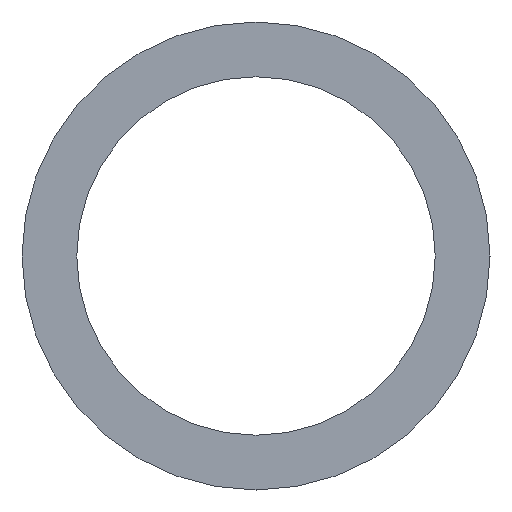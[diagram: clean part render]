
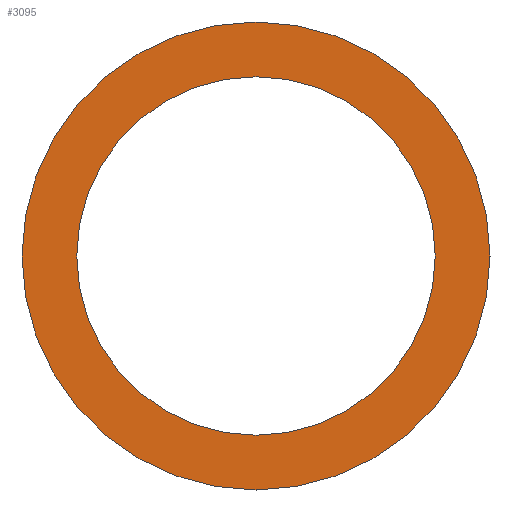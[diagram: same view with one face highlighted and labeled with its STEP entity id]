
A CAD part, front view. The second image highlights one B-rep face of the part: STEP entity #3095.
In plain terms, the highlighted planar face has unit normal (0, -1, 0).
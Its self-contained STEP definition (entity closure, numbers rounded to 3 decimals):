
#49 = AXIS2_PLACEMENT_3D ( 'NONE', #4685, #1073, #1504 ) ;
#291 = DIRECTION ( 'NONE',  ( 0., 0., -1. ) ) ;
#499 = AXIS2_PLACEMENT_3D ( 'NONE', #4060, #2375, #4026 ) ;
#1073 = DIRECTION ( 'NONE',  ( 0., -1., 0. ) ) ;
#1220 = CIRCLE ( 'NONE', #49, 117.5 ) ;
#1240 = CARTESIAN_POINT ( 'NONE',  ( 0., -32., 90. ) ) ;
#1285 = CARTESIAN_POINT ( 'NONE',  ( 0., -32., 0. ) ) ;
#1504 = DIRECTION ( 'NONE',  ( 0., 0., -1. ) ) ;
#1518 = AXIS2_PLACEMENT_3D ( 'NONE', #5228, #4834, #291 ) ;
#1669 = EDGE_CURVE ( 'NONE', #3850, #5085, #4210, .T. ) ;
#1958 = ORIENTED_EDGE ( 'NONE', *, *, #4691, .F. ) ;
#2060 = ORIENTED_EDGE ( 'NONE', *, *, #3341, .T. ) ;
#2244 = FACE_BOUND ( 'NONE', #3813, .T. ) ;
#2375 = DIRECTION ( 'NONE',  ( 0., -1., 0. ) ) ;
#2417 = EDGE_LOOP ( 'NONE', ( #2060, #4135 ) ) ;
#2455 = VERTEX_POINT ( 'NONE', #4144 ) ;
#2530 = DIRECTION ( 'NONE',  ( 0., 0., -1. ) ) ;
#2665 = EDGE_CURVE ( 'NONE', #2455, #4164, #2958, .T. ) ;
#2894 = CARTESIAN_POINT ( 'NONE',  ( 0., -32., -90. ) ) ;
#2924 = CIRCLE ( 'NONE', #3312, 90. ) ;
#2958 = CIRCLE ( 'NONE', #1518, 117.5 ) ;
#3095 = ADVANCED_FACE ( 'NONE', ( #2244, #4189 ), #3726, .F. ) ;
#3148 = ORIENTED_EDGE ( 'NONE', *, *, #1669, .F. ) ;
#3312 = AXIS2_PLACEMENT_3D ( 'NONE', #1285, #4593, #2530 ) ;
#3341 = EDGE_CURVE ( 'NONE', #4164, #2455, #1220, .T. ) ;
#3361 = CARTESIAN_POINT ( 'NONE',  ( 0., -32., 90. ) ) ;
#3726 = PLANE ( 'NONE',  #4605 ) ;
#3813 = EDGE_LOOP ( 'NONE', ( #1958, #3148 ) ) ;
#3850 = VERTEX_POINT ( 'NONE', #3361 ) ;
#3965 = CARTESIAN_POINT ( 'NONE',  ( 0., -32., -117.5 ) ) ;
#4026 = DIRECTION ( 'NONE',  ( 0., 0., -1. ) ) ;
#4060 = CARTESIAN_POINT ( 'NONE',  ( 0., -32., 0. ) ) ;
#4135 = ORIENTED_EDGE ( 'NONE', *, *, #2665, .T. ) ;
#4143 = DIRECTION ( 'NONE',  ( 0., 0., 1. ) ) ;
#4144 = CARTESIAN_POINT ( 'NONE',  ( 0., -32., 117.5 ) ) ;
#4164 = VERTEX_POINT ( 'NONE', #3965 ) ;
#4189 = FACE_OUTER_BOUND ( 'NONE', #2417, .T. ) ;
#4210 = CIRCLE ( 'NONE', #499, 90. ) ;
#4593 = DIRECTION ( 'NONE',  ( 0., -1., 0. ) ) ;
#4605 = AXIS2_PLACEMENT_3D ( 'NONE', #1240, #4934, #4143 ) ;
#4685 = CARTESIAN_POINT ( 'NONE',  ( 0., -32., 0. ) ) ;
#4691 = EDGE_CURVE ( 'NONE', #5085, #3850, #2924, .T. ) ;
#4834 = DIRECTION ( 'NONE',  ( 0., -1., 0. ) ) ;
#4934 = DIRECTION ( 'NONE',  ( 0., 1., 0. ) ) ;
#5085 = VERTEX_POINT ( 'NONE', #2894 ) ;
#5228 = CARTESIAN_POINT ( 'NONE',  ( 0., -32., 0. ) ) ;
